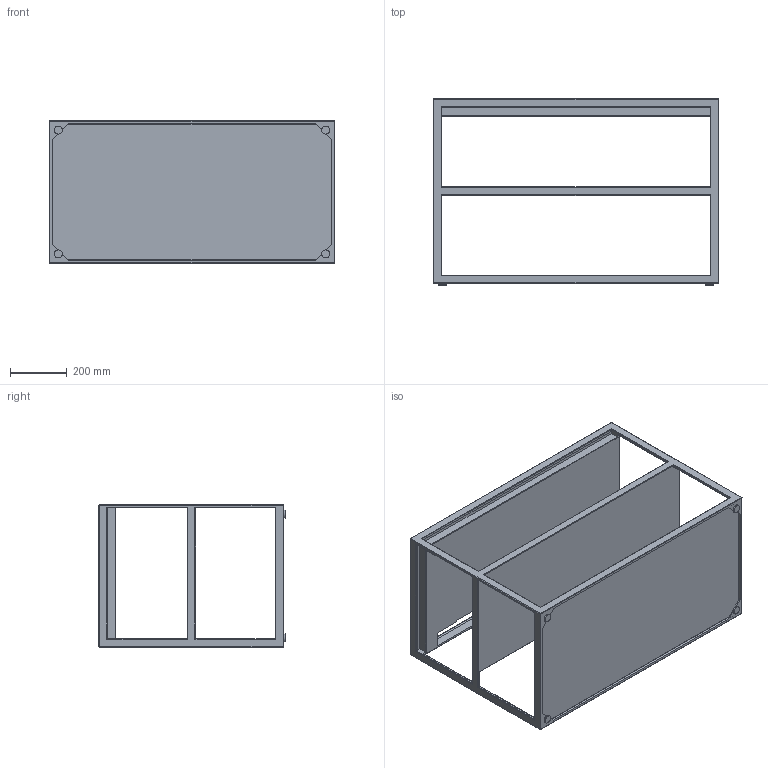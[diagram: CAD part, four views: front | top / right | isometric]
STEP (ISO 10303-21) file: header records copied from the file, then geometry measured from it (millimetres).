
FILE_DESCRIPTION(/* description */ (''),/* implementation_level */ '2;1');
FILE_NAME(/* name */ 'C:\INVENTOR\Workspace\# ARKITEKT FILER\Open Kitchen\OK 100\Open Kitchen 100 No Teak.stp',/* time_stamp */ '2020-05-06T14:47:47+02:00',/* author */ ('Röshults'),/* organization */ (''),/* preprocessor_version */ 'ST-DEVELOPER v17.2',/* originating_system */ 'Autodesk Inventor 2019',/* authorisation */ '');
FILE_SCHEMA (('AUTOMOTIVE_DESIGN { 1 0 10303 214 3 1 1 }'));
Length unit declared in the file: millimetre
Products named in the file (3): Open Kitchen 100 No Teak; Open Frame 100; Open Hylla 100
Assembly tree (2 placements, depth 2):
  Open Kitchen 100 No Teak
    Open Frame 100
    Open Hylla 100
Bounding box: 1004 x 655 x 500 mm (x, y, z)
Volume: 37399223.6 mm3; surface area: 3609643.3 mm2
Topology: 2 solids, 2 shells, 195 faces, 473 edges, 278 vertices
Faces by surface type: cylinder 93, plane 88, sphere 14
Full cylindrical faces by diameter (mm): 28 x4
Entity records: 5704 total; most frequent: DIRECTION 1005, CARTESIAN_POINT 951, ORIENTED_EDGE 946, EDGE_CURVE 473, LINE 341, VECTOR 341, AXIS2_PLACEMENT_3D 332, VERTEX_POINT 278
